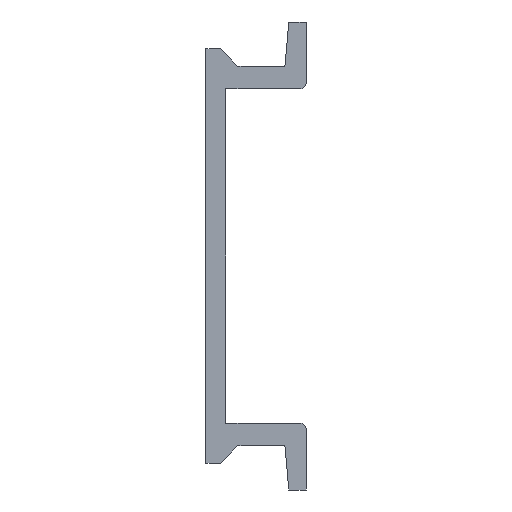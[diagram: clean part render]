
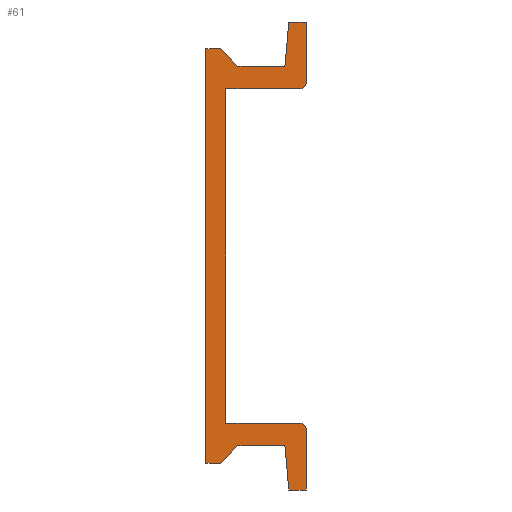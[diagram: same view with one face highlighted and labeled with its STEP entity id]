
A CAD part, left-side view. The second image highlights one B-rep face of the part: STEP entity #61.
In plain terms, the highlighted planar face has unit normal (-1, 0, 0).
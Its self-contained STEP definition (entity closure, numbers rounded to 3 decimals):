
#61=ADVANCED_FACE('',(#337),#336,.F.);
#336=PLANE('',#896);
#337=FACE_OUTER_BOUND('',#897,.T.);
#893=CARTESIAN_POINT('',(0.,-8.25,21.));
#894=DIRECTION('',(1.,0.,0.));
#895=DIRECTION('',(0.,0.,-1.));
#896=AXIS2_PLACEMENT_3D('',#893,#894,#895);
#897=EDGE_LOOP('',(#1294,#1295,#1296,#1297,#1298,#1299,#1300,#1301,#1302,#1303,#1304,#1305,#1306,#1307,#1308,#1309,#1310,#1311));
#1294=ORIENTED_EDGE('',*,*,#1487,.T.);
#1295=ORIENTED_EDGE('',*,*,#1491,.T.);
#1296=ORIENTED_EDGE('',*,*,#1623,.T.);
#1297=ORIENTED_EDGE('',*,*,#1620,.T.);
#1298=ORIENTED_EDGE('',*,*,#1617,.T.);
#1299=ORIENTED_EDGE('',*,*,#1614,.T.);
#1300=ORIENTED_EDGE('',*,*,#1611,.T.);
#1301=ORIENTED_EDGE('',*,*,#1608,.T.);
#1302=ORIENTED_EDGE('',*,*,#1605,.T.);
#1303=ORIENTED_EDGE('',*,*,#1602,.T.);
#1304=ORIENTED_EDGE('',*,*,#1557,.T.);
#1305=ORIENTED_EDGE('',*,*,#1554,.T.);
#1306=ORIENTED_EDGE('',*,*,#1551,.T.);
#1307=ORIENTED_EDGE('',*,*,#1548,.T.);
#1308=ORIENTED_EDGE('',*,*,#1545,.T.);
#1309=ORIENTED_EDGE('',*,*,#1542,.T.);
#1310=ORIENTED_EDGE('',*,*,#1539,.T.);
#1311=ORIENTED_EDGE('',*,*,#1536,.T.);
#1487=EDGE_CURVE('',#1714,#1715,#1716,.T.);
#1491=EDGE_CURVE('',#1715,#1742,#1743,.T.);
#1536=EDGE_CURVE('',#2055,#1714,#2056,.T.);
#1539=EDGE_CURVE('',#2075,#2055,#2076,.T.);
#1542=EDGE_CURVE('',#2095,#2075,#2096,.T.);
#1545=EDGE_CURVE('',#2115,#2095,#2116,.T.);
#1548=EDGE_CURVE('',#2135,#2115,#2136,.T.);
#1551=EDGE_CURVE('',#2155,#2135,#2156,.T.);
#1554=EDGE_CURVE('',#2175,#2155,#2176,.T.);
#1557=EDGE_CURVE('',#2195,#2175,#2196,.T.);
#1602=EDGE_CURVE('',#2508,#2195,#2509,.T.);
#1605=EDGE_CURVE('',#2528,#2508,#2529,.T.);
#1608=EDGE_CURVE('',#2548,#2528,#2549,.T.);
#1611=EDGE_CURVE('',#2568,#2548,#2569,.T.);
#1614=EDGE_CURVE('',#2588,#2568,#2589,.T.);
#1617=EDGE_CURVE('',#2608,#2588,#2609,.T.);
#1620=EDGE_CURVE('',#2628,#2608,#2629,.T.);
#1623=EDGE_CURVE('',#1742,#2628,#2648,.T.);
#1714=VERTEX_POINT('',#2935);
#1715=VERTEX_POINT('',#2936);
#1716=LINE('',#2937,#2938);
#1742=VERTEX_POINT('',#2951);
#1743=LINE('',#2952,#2953);
#2055=VERTEX_POINT('',#3150);
#2056=CIRCLE('',#3154,0.5);
#2075=VERTEX_POINT('',#3163);
#2076=LINE('',#3164,#3165);
#2095=VERTEX_POINT('',#3174);
#2096=LINE('',#3175,#3176);
#2115=VERTEX_POINT('',#3185);
#2116=LINE('',#3186,#3187);
#2135=VERTEX_POINT('',#3196);
#2136=LINE('',#3197,#3198);
#2155=VERTEX_POINT('',#3207);
#2156=LINE('',#3208,#3209);
#2175=VERTEX_POINT('',#3218);
#2176=LINE('',#3219,#3220);
#2195=VERTEX_POINT('',#3229);
#2196=LINE('',#3230,#3231);
#2508=VERTEX_POINT('',#3428);
#2509=LINE('',#3429,#3430);
#2528=VERTEX_POINT('',#3439);
#2529=LINE('',#3440,#3441);
#2548=VERTEX_POINT('',#3450);
#2549=LINE('',#3451,#3452);
#2568=VERTEX_POINT('',#3461);
#2569=LINE('',#3462,#3463);
#2588=VERTEX_POINT('',#3472);
#2589=LINE('',#3473,#3474);
#2608=VERTEX_POINT('',#3483);
#2609=LINE('',#3484,#3485);
#2628=VERTEX_POINT('',#3494);
#2629=CIRCLE('',#3498,0.5);
#2648=LINE('',#3507,#3508);
#2935=CARTESIAN_POINT('',(0.,-7.,-12.5));
#2936=CARTESIAN_POINT('',(0.,-1.5,-12.5));
#2937=CARTESIAN_POINT('',(0.,-7.,-12.5));
#2938=VECTOR('',#2939,5.5);
#2939=DIRECTION('',(0.,1.,0.));
#2951=CARTESIAN_POINT('',(0.,-1.5,12.5));
#2952=CARTESIAN_POINT('',(0.,-1.5,-12.5));
#2953=VECTOR('',#2954,25.);
#2954=DIRECTION('',(0.,0.,1.));
#3150=CARTESIAN_POINT('',(0.,-7.5,-13.));
#3151=CARTESIAN_POINT('',(0.,-7.,-13.));
#3152=DIRECTION('',(-1.,0.,0.));
#3153=DIRECTION('',(0.,0.,1.));
#3154=AXIS2_PLACEMENT_3D('',#3151,#3152,#3153);
#3163=CARTESIAN_POINT('',(0.,-7.5,-17.5));
#3164=CARTESIAN_POINT('',(0.,-7.5,-17.5));
#3165=VECTOR('',#3166,4.5);
#3166=DIRECTION('',(0.,0.,1.));
#3174=CARTESIAN_POINT('',(0.,-6.2,-17.5));
#3175=CARTESIAN_POINT('',(0.,-6.2,-17.5));
#3176=VECTOR('',#3177,1.3);
#3177=DIRECTION('',(0.,-1.,0.));
#3185=CARTESIAN_POINT('',(0.,-5.911,-14.2));
#3186=CARTESIAN_POINT('',(0.,-5.911,-14.2));
#3187=VECTOR('',#3188,3.313);
#3188=DIRECTION('',(0.,-0.087,-0.996));
#3196=CARTESIAN_POINT('',(0.,-2.4,-14.2));
#3197=CARTESIAN_POINT('',(0.,-2.4,-14.2));
#3198=VECTOR('',#3199,3.511);
#3199=DIRECTION('',(0.,-1.,0.));
#3207=CARTESIAN_POINT('',(0.,-1.1,-15.5));
#3208=CARTESIAN_POINT('',(0.,-1.1,-15.5));
#3209=VECTOR('',#3210,1.838);
#3210=DIRECTION('',(0.,-0.707,0.707));
#3218=CARTESIAN_POINT('',(0.,0.,-15.5));
#3219=CARTESIAN_POINT('',(0.,0.,-15.5));
#3220=VECTOR('',#3221,1.1);
#3221=DIRECTION('',(0.,-1.,0.));
#3229=CARTESIAN_POINT('',(0.,0.,15.5));
#3230=CARTESIAN_POINT('',(0.,0.,15.5));
#3231=VECTOR('',#3232,31.);
#3232=DIRECTION('',(0.,0.,-1.));
#3428=CARTESIAN_POINT('',(0.,-1.1,15.5));
#3429=CARTESIAN_POINT('',(0.,-1.1,15.5));
#3430=VECTOR('',#3431,1.1);
#3431=DIRECTION('',(0.,1.,0.));
#3439=CARTESIAN_POINT('',(0.,-2.4,14.2));
#3440=CARTESIAN_POINT('',(0.,-2.4,14.2));
#3441=VECTOR('',#3442,1.838);
#3442=DIRECTION('',(0.,0.707,0.707));
#3450=CARTESIAN_POINT('',(0.,-5.911,14.2));
#3451=CARTESIAN_POINT('',(0.,-5.911,14.2));
#3452=VECTOR('',#3453,3.511);
#3453=DIRECTION('',(0.,1.,0.));
#3461=CARTESIAN_POINT('',(0.,-6.2,17.5));
#3462=CARTESIAN_POINT('',(0.,-6.2,17.5));
#3463=VECTOR('',#3464,3.313);
#3464=DIRECTION('',(0.,0.087,-0.996));
#3472=CARTESIAN_POINT('',(0.,-7.5,17.5));
#3473=CARTESIAN_POINT('',(0.,-7.5,17.5));
#3474=VECTOR('',#3475,1.3);
#3475=DIRECTION('',(0.,1.,0.));
#3483=CARTESIAN_POINT('',(0.,-7.5,13.));
#3484=CARTESIAN_POINT('',(0.,-7.5,13.));
#3485=VECTOR('',#3486,4.5);
#3486=DIRECTION('',(0.,0.,1.));
#3494=CARTESIAN_POINT('',(0.,-7.,12.5));
#3495=CARTESIAN_POINT('',(0.,-7.,13.));
#3496=DIRECTION('',(-1.,0.,0.));
#3497=DIRECTION('',(0.,0.,1.));
#3498=AXIS2_PLACEMENT_3D('',#3495,#3496,#3497);
#3507=CARTESIAN_POINT('',(0.,-1.5,12.5));
#3508=VECTOR('',#3509,5.5);
#3509=DIRECTION('',(0.,-1.,0.));
